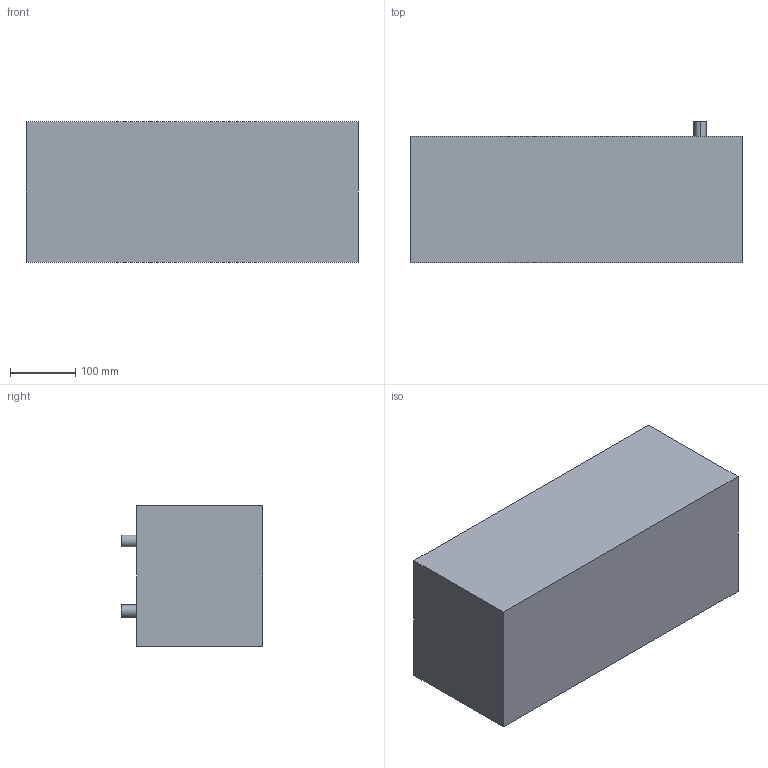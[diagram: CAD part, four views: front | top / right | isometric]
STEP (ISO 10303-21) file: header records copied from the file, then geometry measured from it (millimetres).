
FILE_DESCRIPTION (( 'STEP AP203' ), '1' );
FILE_NAME ('6-QW-150(800)-L.STEP', '2024-06-13T09:07:39', ( '' ), ( '' ), 'SwSTEP 2.0', 'SolidWorks 2020', '' );
FILE_SCHEMA (( 'CONFIG_CONTROL_DESIGN' ));
Length unit declared in the file: millimetre
Products named in the file (1): 6-QW-150(800)-L
Bounding box: 510 x 217.5 x 216 mm (x, y, z)
Volume: 21383972 mm3; surface area: 504769.1 mm2
Topology: 1 solids, 1 shells, 12 faces, 24 edges, 16 vertices
Faces by surface type: plane 8, cylinder 4
Entity records: 393 total; most frequent: DIRECTION 58, CARTESIAN_POINT 53, ORIENTED_EDGE 48, EDGE_CURVE 24, AXIS2_PLACEMENT_3D 21, VECTOR 16, LINE 16, VERTEX_POINT 16
